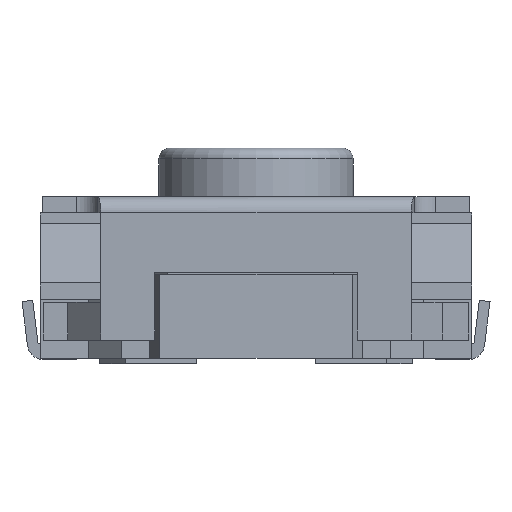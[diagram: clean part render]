
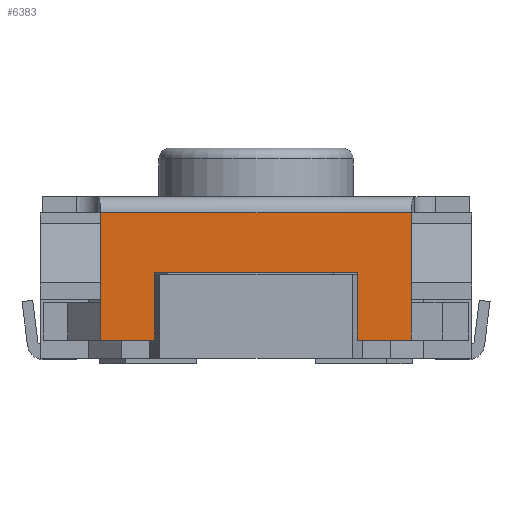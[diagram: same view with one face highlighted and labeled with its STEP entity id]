
A CAD part, front view. The second image highlights one B-rep face of the part: STEP entity #6383.
In plain terms, the highlighted planar face has unit normal (0, -1, 0).
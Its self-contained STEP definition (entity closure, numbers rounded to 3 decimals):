
#184 = CARTESIAN_POINT ( 'NONE',  ( -6.502, 5.6, 0.17 ) ) ;
#188 = CARTESIAN_POINT ( 'NONE',  ( -7.002, 5.6, 0.17 ) ) ;
#388 = CARTESIAN_POINT ( 'NONE',  ( -4.622, 5.6, 0.17 ) ) ;
#665 = ORIENTED_EDGE ( 'NONE', *, *, #14057, .T. ) ;
#962 = EDGE_CURVE ( 'NONE', #1327, #5082, #3183, .T. ) ;
#1194 = VERTEX_POINT ( 'NONE', #388 ) ;
#1308 = LINE ( 'NONE', #4314, #4143 ) ;
#1327 = VERTEX_POINT ( 'NONE', #19193 ) ;
#1792 = CARTESIAN_POINT ( 'NONE',  ( -7.002, 5.6, 0.17 ) ) ;
#2080 = EDGE_CURVE ( 'NONE', #15776, #9718, #21293, .T. ) ;
#2233 = LINE ( 'NONE', #3947, #7373 ) ;
#2806 = DIRECTION ( 'NONE',  ( 0., 0., 1. ) ) ;
#3183 = LINE ( 'NONE', #11383, #16833 ) ;
#3386 = DIRECTION ( 'NONE',  ( 0., 0., 1. ) ) ;
#3606 = VECTOR ( 'NONE', #3633, 1000. ) ;
#3633 = DIRECTION ( 'NONE',  ( 1., 0., 0. ) ) ;
#3703 = AXIS2_PLACEMENT_3D ( 'NONE', #11815, #13223, #19675 ) ;
#3874 = VECTOR ( 'NONE', #3386, 1000. ) ;
#3947 = CARTESIAN_POINT ( 'NONE',  ( -4.622, 5.6, 0.17 ) ) ;
#4143 = VECTOR ( 'NONE', #2806, 1000. ) ;
#4314 = CARTESIAN_POINT ( 'NONE',  ( -4.122, 5.6, 0.17 ) ) ;
#5049 = ORIENTED_EDGE ( 'NONE', *, *, #962, .F. ) ;
#5082 = VERTEX_POINT ( 'NONE', #7630 ) ;
#5100 = VERTEX_POINT ( 'NONE', #11080 ) ;
#5227 = FACE_OUTER_BOUND ( 'NONE', #9537, .T. ) ;
#5292 = EDGE_CURVE ( 'NONE', #15444, #7585, #8369, .T. ) ;
#5379 = ORIENTED_EDGE ( 'NONE', *, *, #15722, .F. ) ;
#5752 = DIRECTION ( 'NONE',  ( 0., 0., 1. ) ) ;
#6335 = EDGE_CURVE ( 'NONE', #7585, #1327, #19780, .T. ) ;
#6383 = ADVANCED_FACE ( 'NONE', ( #5227 ), #20099, .F. ) ;
#6416 = VERTEX_POINT ( 'NONE', #12026 ) ;
#7373 = VECTOR ( 'NONE', #10531, 1000. ) ;
#7534 = ORIENTED_EDGE ( 'NONE', *, *, #13458, .F. ) ;
#7585 = VERTEX_POINT ( 'NONE', #1792 ) ;
#7630 = CARTESIAN_POINT ( 'NONE',  ( -7.002, 5.6, 1.35 ) ) ;
#8252 = DIRECTION ( 'NONE',  ( 0., 0., 1. ) ) ;
#8291 = VECTOR ( 'NONE', #5752, 1000. ) ;
#8369 = LINE ( 'NONE', #184, #18766 ) ;
#9537 = EDGE_LOOP ( 'NONE', ( #13406, #5049, #17079, #14249, #11895, #7534, #10201, #5379, #665, #12238 ) ) ;
#9718 = VERTEX_POINT ( 'NONE', #9761 ) ;
#9761 = CARTESIAN_POINT ( 'NONE',  ( -4.122, 5.6, 1.35 ) ) ;
#10201 = ORIENTED_EDGE ( 'NONE', *, *, #11281, .F. ) ;
#10531 = DIRECTION ( 'NONE',  ( -1., 0., 0. ) ) ;
#10615 = CARTESIAN_POINT ( 'NONE',  ( -6.502, 5.6, 0.52 ) ) ;
#10673 = VECTOR ( 'NONE', #17656, 1000. ) ;
#10951 = VECTOR ( 'NONE', #11500, 1000. ) ;
#11080 = CARTESIAN_POINT ( 'NONE',  ( -4.122, 5.6, 0.17 ) ) ;
#11281 = EDGE_CURVE ( 'NONE', #1194, #13681, #13837, .T. ) ;
#11383 = CARTESIAN_POINT ( 'NONE',  ( -7.002, 5.6, 0.8 ) ) ;
#11500 = DIRECTION ( 'NONE',  ( 0., 0., 1. ) ) ;
#11815 = CARTESIAN_POINT ( 'NONE',  ( -4.122, 5.6, 0.8 ) ) ;
#11832 = LINE ( 'NONE', #18394, #3606 ) ;
#11895 = ORIENTED_EDGE ( 'NONE', *, *, #18476, .T. ) ;
#12026 = CARTESIAN_POINT ( 'NONE',  ( -6.502, 5.6, 0.8 ) ) ;
#12229 = CARTESIAN_POINT ( 'NONE',  ( -4.622, 5.6, 0.52 ) ) ;
#12238 = ORIENTED_EDGE ( 'NONE', *, *, #2080, .T. ) ;
#12582 = CARTESIAN_POINT ( 'NONE',  ( -4.122, 5.6, 0.52 ) ) ;
#12703 = LINE ( 'NONE', #16044, #10673 ) ;
#13115 = DIRECTION ( 'NONE',  ( -1., 0., 0. ) ) ;
#13223 = DIRECTION ( 'NONE',  ( 0., 1., 0. ) ) ;
#13406 = ORIENTED_EDGE ( 'NONE', *, *, #17068, .F. ) ;
#13458 = EDGE_CURVE ( 'NONE', #13681, #6416, #12703, .T. ) ;
#13526 = DIRECTION ( 'NONE',  ( 0., 0., 1. ) ) ;
#13681 = VERTEX_POINT ( 'NONE', #19130 ) ;
#13744 = LINE ( 'NONE', #10615, #8291 ) ;
#13837 = LINE ( 'NONE', #12229, #15871 ) ;
#14057 = EDGE_CURVE ( 'NONE', #5100, #15776, #1308, .T. ) ;
#14249 = ORIENTED_EDGE ( 'NONE', *, *, #5292, .F. ) ;
#15444 = VERTEX_POINT ( 'NONE', #15648 ) ;
#15648 = CARTESIAN_POINT ( 'NONE',  ( -6.502, 5.6, 0.17 ) ) ;
#15722 = EDGE_CURVE ( 'NONE', #5100, #1194, #2233, .T. ) ;
#15776 = VERTEX_POINT ( 'NONE', #12582 ) ;
#15871 = VECTOR ( 'NONE', #13526, 1000. ) ;
#16044 = CARTESIAN_POINT ( 'NONE',  ( -4.122, 5.6, 0.8 ) ) ;
#16833 = VECTOR ( 'NONE', #8252, 1000. ) ;
#17068 = EDGE_CURVE ( 'NONE', #5082, #9718, #11832, .T. ) ;
#17079 = ORIENTED_EDGE ( 'NONE', *, *, #6335, .F. ) ;
#17656 = DIRECTION ( 'NONE',  ( -1., 0., 0. ) ) ;
#17951 = CARTESIAN_POINT ( 'NONE',  ( -4.122, 5.6, 0.8 ) ) ;
#18394 = CARTESIAN_POINT ( 'NONE',  ( -7.002, 5.6, 1.35 ) ) ;
#18476 = EDGE_CURVE ( 'NONE', #15444, #6416, #13744, .T. ) ;
#18766 = VECTOR ( 'NONE', #13115, 1000. ) ;
#19130 = CARTESIAN_POINT ( 'NONE',  ( -4.622, 5.6, 0.8 ) ) ;
#19193 = CARTESIAN_POINT ( 'NONE',  ( -7.002, 5.6, 0.52 ) ) ;
#19675 = DIRECTION ( 'NONE',  ( 1., 0., 0. ) ) ;
#19780 = LINE ( 'NONE', #188, #10951 ) ;
#20099 = PLANE ( 'NONE',  #3703 ) ;
#21293 = LINE ( 'NONE', #17951, #3874 ) ;
